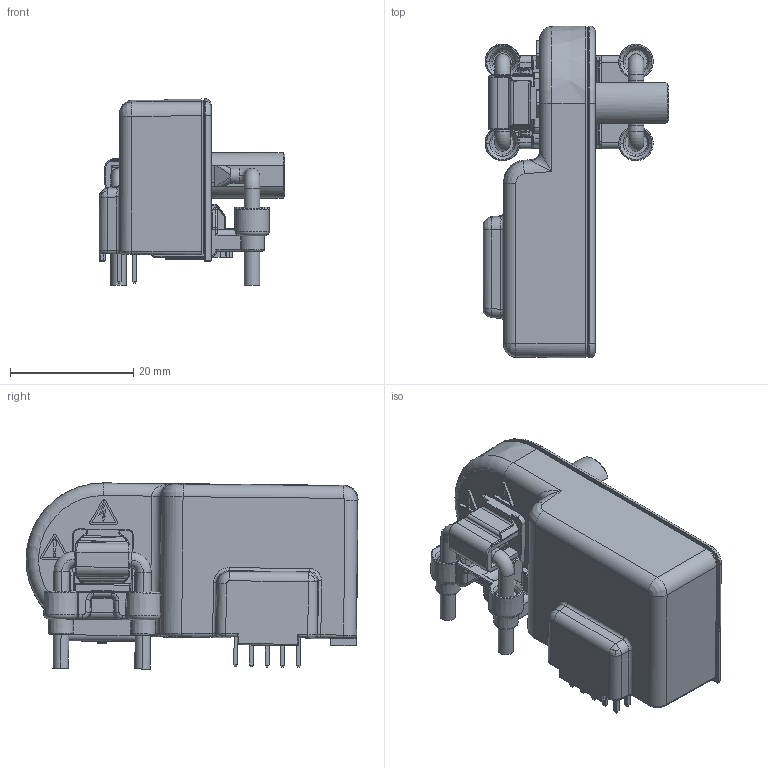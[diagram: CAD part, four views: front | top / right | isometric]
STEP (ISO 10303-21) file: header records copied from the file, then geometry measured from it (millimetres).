
FILE_DESCRIPTION(('Creo Elements/Direct Modeling STEP Export'),'2;1');
FILE_NAME('CDSR-STEP.stp','2024-05-28T14:52:46',(''),(''),'Creo Elements/Direct Modeling STEP processor for AP214 (Solid Model)','Creo Elements/Direct Modeling 20.3D 14-Nov-2022 (C) Parametric Technology GmbH','');
FILE_SCHEMA(('AUTOMOTIVE_DESIGN { 1 0 10303 214 1 1 1 1 }'));
Products named in the file (2): quilt.1
Assembly tree (1 placements, depth 2):
  quilt.1
    quilt.1
Bounding box: 30.2 x 53.96 x 30.26 mm (x, y, z)
Surface area: 7989.7 mm2 (no closed solid volume)
Topology: 0 solids, 1 shells, 1229 faces, 3223 edges, 1993 vertices
Faces by surface type: plane 417, cylinder 353, bspline 313, torus 97, cone 35, extrusion 8, sphere 6
Entity records: 83441 total; most frequent: CARTESIAN_POINT 45153, ORIENTED_EDGE 6402, DIRECTION 5176, EDGE_CURVE 3203, VERTEX_POINT 1993, AXIS2_PLACEMENT_3D 1857, VECTOR 1462, LINE 1454
